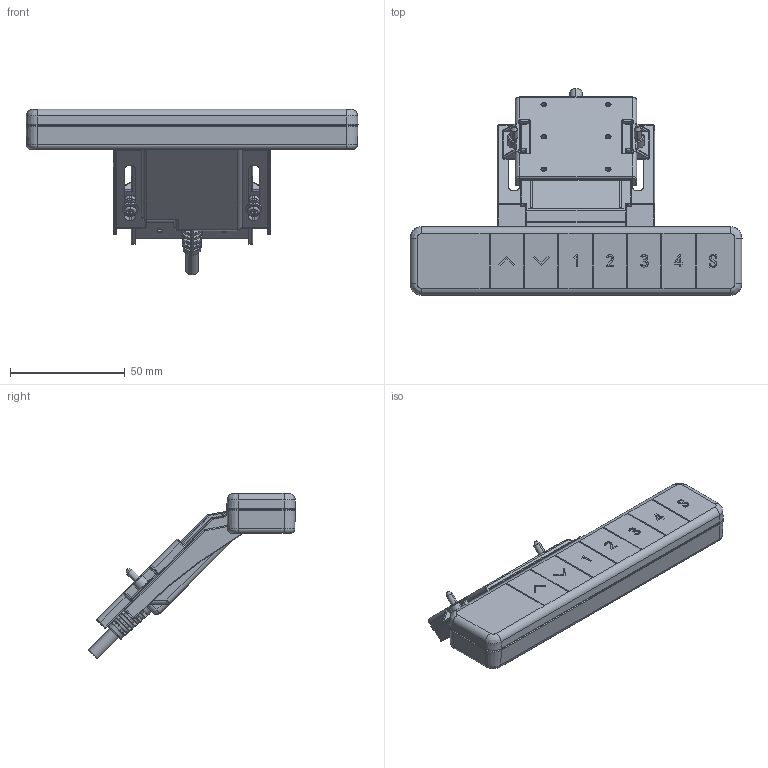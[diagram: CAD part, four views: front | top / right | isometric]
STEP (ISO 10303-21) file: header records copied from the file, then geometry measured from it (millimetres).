
FILE_DESCRIPTION((''),'2;1');
FILE_NAME('DP07-0','2019-09-20T',('USER'),(''),'PRO/ENGINEER BY PARAMETRIC TECHNOLOGY CORPORATION, 2016240','PRO/ENGINEER BY PARAMETRIC TECHNOLOGY CORPORATION, 2016240','');
FILE_SCHEMA(('CONFIG_CONTROL_DESIGN'));
Length unit declared in the file: millimetre
Products named in the file (1): DP07-0
Bounding box: 144.98 x 90.34 x 72.37 mm (x, y, z)
Volume: 48337.1 mm3; surface area: 53189 mm2
Topology: 1 solids, 3 shells, 1297 faces, 3330 edges, 2059 vertices
Faces by surface type: plane 532, cylinder 433, torus 130, sphere 60, cone 59, bspline 51, extrusion 32
Entity records: 42655 total; most frequent: CARTESIAN_POINT 11438, ORIENTED_EDGE 6660, DIRECTION 6374, EDGE_CURVE 3330, AXIS2_PLACEMENT_3D 2261, VERTEX_POINT 2059, VECTOR 1852, LINE 1820
